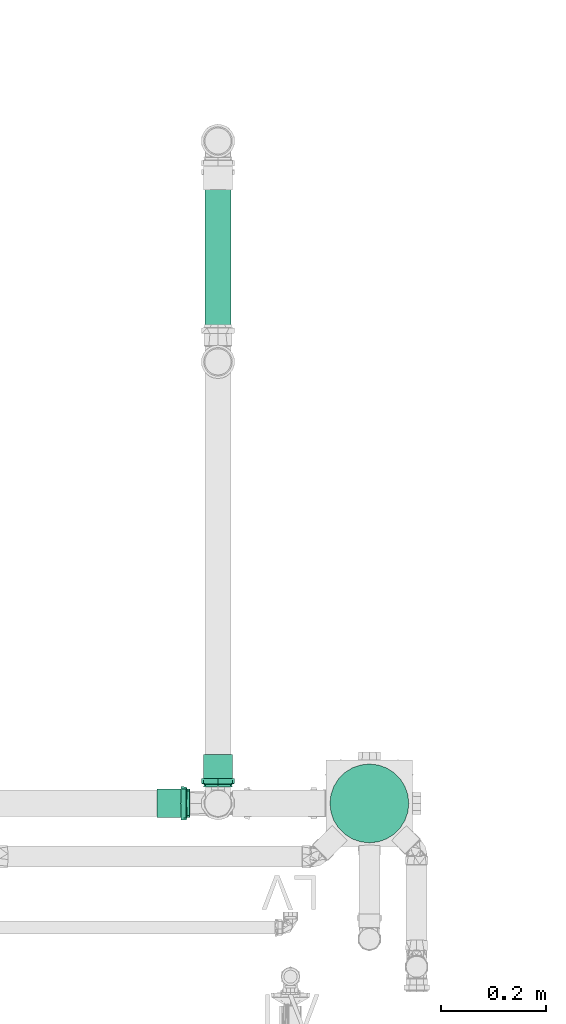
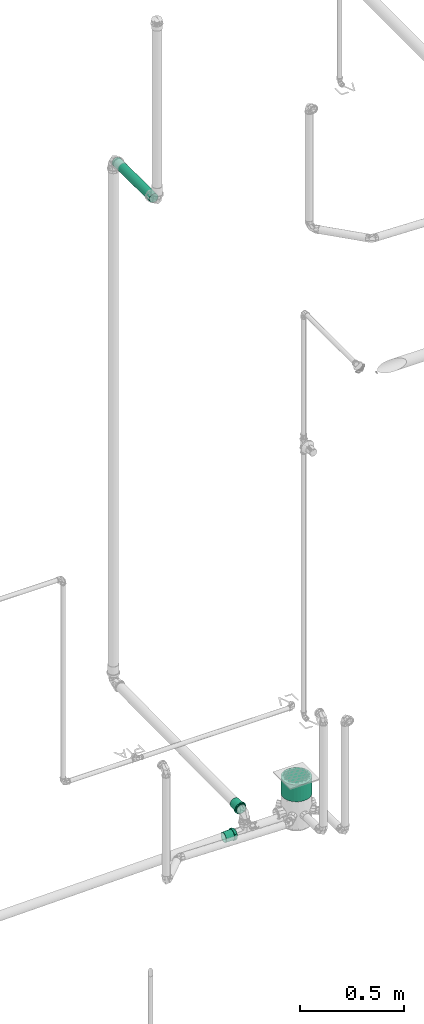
# One storey, part 259 of 589: 2 flow fittings, 2 flow segments.
"""IFC2X3 building model written with IfcOpenShell, lengths in millimetres."""

import ifcopenshell
import ifcopenshell.guid

model = None  # the IFC model being written
_history = None  # IfcOwnerHistory: only IFC2X3 demands one
_inside = {}  # id of a spatial element -> (the spatial element, [elements in it])
_under = {}  # id of a project, library or spatial element -> (it, [spatial elements below it])
_declared = {}  # id of a project -> (the project, [libraries it declares])
_typed = {}  # id of a type object -> (the type object, [elements of that type])
_made_of = {}  # id of a material, layer set ... -> (it, [elements and type objects made of it])


def new_model(schema):
    """Start an empty IFC model of exactly this schema.

    Asked for "IFC4X3", IfcOpenShell would pick the latest addendum, in which some entities
    have other attributes; the version numbers below select the first issue.
    IFC2X3 requires an IfcOwnerHistory on every rooted entity: one is made here for all.
    """
    global model, _history
    if schema == "IFC4X3":
        model = ifcopenshell.file(schema_version=(4, 3, 0, 0))
    else:
        model = ifcopenshell.file(schema=schema)
    _inside.clear()
    _under.clear()
    _declared.clear()
    _typed.clear()
    _made_of.clear()
    _history = None
    if model.schema == "IFC2X3":
        org = make("IfcOrganization", Name="unknown")
        user = make(
            "IfcPersonAndOrganization",
            ThePerson=make("IfcPerson", FamilyName="unknown"),
            TheOrganization=org,
        )
        app = make(
            "IfcApplication",
            ApplicationDeveloper=org,
            Version="unknown",
            ApplicationFullName="unknown",
            ApplicationIdentifier="unknown",
        )
        _history = make(
            "IfcOwnerHistory",
            OwningUser=user,
            OwningApplication=app,
            ChangeAction="ADDED",
            CreationDate=0,
        )
    return model


def make(cls, **values):
    """One entity of the class cls with the attributes given. An attribute that is None is left unset."""
    return model.create_entity(
        cls, **{name: value for name, value in values.items() if value is not None}
    )


def entity(cls, *values):
    """Any entity or typed value of the class cls, its attributes in the order of the schema. None: left unset."""
    e = model.create_entity(cls)
    for i, value in enumerate(values):
        if value is not None:
            e[i] = value
    return e


def rooted(cls, **values):
    """An entity with a GlobalId (a new one), such as an element, a storey or a relation."""
    return make(cls, GlobalId=ifcopenshell.guid.new(), OwnerHistory=_history, **values)


def si_unit(unit_type, name, prefix=None):
    """IfcSIUnit, for example si_unit("LENGTHUNIT", "METRE", prefix="MILLI")."""
    return make("IfcSIUnit", UnitType=unit_type, Prefix=prefix, Name=name)


def converted_unit(unit_type, name, factor, base, dimensions=None, offset=None):
    """IfcConversionBasedUnit, such as the inch: factor (a typed value) times the base unit."""
    return make(
        "IfcConversionBasedUnit"
        if offset is None
        else "IfcConversionBasedUnitWithOffset",
        ConversionOffset=offset,
        Dimensions=None
        if dimensions is None
        else entity("IfcDimensionalExponents", *dimensions),
        UnitType=unit_type,
        Name=name,
        ConversionFactor=make(
            "IfcMeasureWithUnit", ValueComponent=factor, UnitComponent=base
        ),
    )


def derived_unit(unit_type, elements):
    """IfcDerivedUnit: a product of units, each with its exponent."""
    return make(
        "IfcDerivedUnit",
        Elements=[
            make("IfcDerivedUnitElement", Unit=unit, Exponent=power)
            for unit, power in elements
        ],
        UnitType=unit_type,
    )


def assignment(units):
    """IfcUnitAssignment: the units of a project."""
    return None if units is None else make("IfcUnitAssignment", Units=units)


def point(xyz):
    """IfcCartesianPoint."""
    return None if xyz is None else make("IfcCartesianPoint", Coordinates=xyz)


def direction(xyz):
    """IfcDirection."""
    return None if xyz is None else make("IfcDirection", DirectionRatios=xyz)


def frame(location, z_axis=None, x_axis=None):
    """IfcAxis2Placement3D, a coordinate frame: its origin and axes. An axis left out is left unset."""
    return make(
        "IfcAxis2Placement3D",
        Location=point(location),
        Axis=direction(z_axis),
        RefDirection=direction(x_axis),
    )


def frame_2d(location, x_axis=None):
    """IfcAxis2Placement2D, a coordinate frame in the plane: its origin and x axis."""
    return make(
        "IfcAxis2Placement2D", Location=point(location), RefDirection=direction(x_axis)
    )


def origin():
    """The frame at (0, 0, 0) with its axes left unset."""
    return frame((0.0, 0.0, 0.0))


def origin_2d_with_axis():
    """The frame at (0, 0) in the plane with the x axis (1, 0) written out."""
    return frame_2d((0.0, 0.0), x_axis=(1.0, 0.0))


def place(relative_to, where):
    """IfcLocalPlacement: puts the frame where relative to a parent placement (None: the world)."""
    return make(
        "IfcLocalPlacement", PlacementRelTo=relative_to, RelativePlacement=where
    )


def context(
    kind, dimensions, precision=None, world=None, true_north=None, identifier=None
):
    """IfcGeometricRepresentationContext, for example the 3D "Model" context."""
    return make(
        "IfcGeometricRepresentationContext",
        ContextIdentifier=identifier,
        ContextType=kind,
        CoordinateSpaceDimension=dimensions,
        Precision=precision,
        WorldCoordinateSystem=world,
        TrueNorth=true_north,
    )


def subcontext(parent, identifier, kind, view, scale=None):
    """IfcGeometricRepresentationSubContext, for example "Body" below "Model"."""
    return make(
        "IfcGeometricRepresentationSubContext",
        ContextIdentifier=identifier,
        ContextType=kind,
        ParentContext=parent,
        TargetScale=scale,
        TargetView=view,
    )


def project(units=None, contexts=None):
    """IfcProject with its units and contexts."""
    return rooted(
        "IfcProject",
        Name="project",
        RepresentationContexts=contexts,
        UnitsInContext=assignment(units),
    )


def spatial(cls, under=None, at=None, **own):
    """A site, building, storey or space (cls), placed at a placement, below another one or the project."""
    s = rooted(cls, ObjectPlacement=at, **own)
    if under is not None:
        _under.setdefault(under.id(), (under, []))[1].append(s)
    return s


def profile(cls, at=None, kind="AREA", **sizes):
    """A parametric profile (cls). Its sizes go by their IFC names, for example OverallWidth=200.0."""
    return make(cls, ProfileType=kind, Position=at, **sizes)


def circle(**sizes):
    """IfcCircleProfileDef."""
    return profile("IfcCircleProfileDef", **sizes)


def extrude(swept, where, along, depth):
    """IfcExtrudedAreaSolid: the profile swept, set in the frame where, extruded along a direction by depth."""
    return make(
        "IfcExtrudedAreaSolid",
        SweptArea=swept,
        Position=where,
        ExtrudedDirection=direction(along),
        Depth=depth,
    )


def faces_of(points, faces, orient=None, outer=None):
    """IfcFace entities. A face is a list of loops; a loop is a list of indices into points, from 0.

    orient and outer hold one flag for each loop. By default every Orientation is true, the
    first loop of a face is its IfcFaceOuterBound and the others are IfcFaceBound.
    """
    made = []
    for i, loops in enumerate(faces):
        bounds = []
        for j, loop in enumerate(loops):
            is_outer = j == 0 if outer is None else outer[i][j]
            bounds.append(
                make(
                    "IfcFaceOuterBound" if is_outer else "IfcFaceBound",
                    Bound=make("IfcPolyLoop", Polygon=[points[k] for k in loop]),
                    Orientation=True if orient is None else orient[i][j],
                )
            )
        made.append(make("IfcFace", Bounds=bounds))
    return made


def faceted_brep(points, faces, orient=None, outer=None, voids=None):
    """IfcFacetedBrep: a solid bounded by flat faces; with voids (closed shells), ...WithVoids."""
    shared = [point(p) for p in points]
    hull = make("IfcClosedShell", CfsFaces=faces_of(shared, faces, orient, outer))
    if voids is None:
        return make("IfcFacetedBrep", Outer=hull)
    return make(
        "IfcFacetedBrepWithVoids",
        Outer=hull,
        Voids=[
            make(cls, CfsFaces=faces_of(shared, fs, o, b)) for cls, fs, o, b in voids
        ],
    )


def shape(context_of_items, identifier, shape_type, items):
    """IfcShapeRepresentation: the items that make up one representation, for example the "Body"."""
    return make(
        "IfcShapeRepresentation",
        ContextOfItems=context_of_items,
        RepresentationIdentifier=identifier,
        RepresentationType=shape_type,
        Items=items,
    )


def source(mapping_origin, context_of_items, identifier, shape_type, items):
    """IfcRepresentationMap: a shape defined once, which mapped items show again and again."""
    return make(
        "IfcRepresentationMap",
        MappingOrigin=mapping_origin,
        MappedRepresentation=shape(context_of_items, identifier, shape_type, items),
    )


def transform(
    local_origin,
    x_axis=None,
    y_axis=None,
    z_axis=None,
    scale=None,
    scale2=None,
    scale3=None,
    uniform=True,
):
    """IfcCartesianTransformationOperator3D, or its non-uniform kind. x_axis, y_axis, z_axis: its Axis1, 2, 3."""
    if uniform:
        return make(
            "IfcCartesianTransformationOperator3D",
            Axis1=direction(x_axis),
            Axis2=direction(y_axis),
            LocalOrigin=point(local_origin),
            Scale=scale,
            Axis3=direction(z_axis),
        )
    return make(
        "IfcCartesianTransformationOperator3DnonUniform",
        Axis1=direction(x_axis),
        Axis2=direction(y_axis),
        LocalOrigin=point(local_origin),
        Scale=scale,
        Axis3=direction(z_axis),
        Scale2=scale2,
        Scale3=scale3,
    )


def mapped(mapping_source, mapping_target):
    """IfcMappedItem: shows the shape of a source again, moved by a transform."""
    return make(
        "IfcMappedItem", MappingSource=mapping_source, MappingTarget=mapping_target
    )


def material(Name=None, Category=None):
    """IfcMaterial."""
    return make("IfcMaterial", Name=Name, Category=Category)


def made_of(thing, what):
    """Note that an element or type object is made of a material, layer set ...; save() writes the relation."""
    if what is not None:
        _made_of.setdefault(what.id(), (what, []))[1].append(thing)
    return thing


def type_object(cls, material=None, **own):
    """A type object (cls), such as IfcWallType, which elements share."""
    return made_of(rooted(cls, **own), material)


def type_shapes(of_type, sources):
    """Give a type object the sources (RepresentationMaps) that its elements show as mapped items."""
    of_type.RepresentationMaps = sources


def element(
    cls,
    number,
    at=None,
    inside=None,
    cuts=None,
    type_object=None,
    material=None,
    context=None,
    identifier="Body",
    shape_type=None,
    held_by="IfcProductDefinitionShape",
    body=None,
    shapes=None,
    **own,
):
    """One element of the class cls, such as IfcWall. Its Tag is "e" and its number.

    at: its placement. inside: the storey or other place that contains it. cuts: it is an
    opening in that element (IfcRelVoidsElement). A single representation is given by context,
    identifier, shape_type and body (its items); several are given by shapes. held_by: the class
    of the entity that holds the representations. save() writes the other relations.
    """
    e = rooted(cls, Tag="e%d" % number, ObjectPlacement=at, **own)
    if body is not None:
        shapes = [shape(context, identifier, shape_type, body)]
    if shapes is not None:
        e.Representation = make(held_by, Representations=shapes)
    if inside is not None:
        _inside.setdefault(inside.id(), (inside, []))[1].append(e)
    if cuts is not None:
        rooted(
            "IfcRelVoidsElement", RelatingBuildingElement=cuts, RelatedOpeningElement=e
        )
    if type_object is not None:
        _typed.setdefault(type_object.id(), (type_object, []))[1].append(e)
    return made_of(e, material)


def aggregate(whole, parts):
    """IfcRelAggregates: a whole, such as a stair, and the parts it consists of."""
    return rooted("IfcRelAggregates", RelatingObject=whole, RelatedObjects=parts)


def save(model, path):
    """Write the relations noted so far, then the file.

    IfcRelAggregates (storeys below a building ...), IfcRelContainedInSpatialStructure (elements
    in a storey), IfcRelDefinesByType, IfcRelAssociatesMaterial and IfcRelDeclares: one each for
    every whole, place, type object, material and project.
    """
    for whole, parts in _under.values():
        aggregate(whole, parts)
    for where, things in _inside.values():
        rooted(
            "IfcRelContainedInSpatialStructure",
            RelatedElements=things,
            RelatingStructure=where,
        )
    for kind, things in _typed.values():
        rooted("IfcRelDefinesByType", RelatedObjects=things, RelatingType=kind)
    for what, things in _made_of.values():
        rooted("IfcRelAssociatesMaterial", RelatedObjects=things, RelatingMaterial=what)
    for by, libraries in _declared.values():
        rooted("IfcRelDeclares", RelatingContext=by, RelatedDefinitions=libraries)
    model.write(path)


model = new_model("IFC2X3")

# Units and contexts
model_context = context("Model", 3, precision=0.01, world=origin(), true_north=direction((6.123031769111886e-17, 1.0)))
body_context = subcontext(model_context, "Body", "Model", "MODEL_VIEW")
ifc_project = project(units=[si_unit("LENGTHUNIT", "METRE", prefix="MILLI"), si_unit("AREAUNIT", "SQUARE_METRE"), si_unit("VOLUMEUNIT", "CUBIC_METRE"), converted_unit("PLANEANGLEUNIT", "DEGREE", entity("IfcRatioMeasure", 0.017453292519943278), si_unit("PLANEANGLEUNIT", "RADIAN"), dimensions=[0, 0, 0, 0, 0, 0, 0]), si_unit("MASSUNIT", "GRAM", prefix="KILO"), derived_unit("MASSDENSITYUNIT", [(si_unit("MASSUNIT", "GRAM", prefix="KILO"), 1), (si_unit("LENGTHUNIT", "METRE"), -3)]), derived_unit("IONCONCENTRATIONUNIT", [(si_unit("MASSUNIT", "GRAM", prefix="KILO"), 1), (si_unit("LENGTHUNIT", "METRE"), -3)]), derived_unit("MOMENTOFINERTIAUNIT", [(si_unit("LENGTHUNIT", "METRE"), 4)]), si_unit("TIMEUNIT", "SECOND"), si_unit("FREQUENCYUNIT", "HERTZ"), si_unit("THERMODYNAMICTEMPERATUREUNIT", "DEGREE_CELSIUS"), derived_unit("THERMALTRANSMITTANCEUNIT", [(si_unit("MASSUNIT", "GRAM", prefix="KILO"), 1), (si_unit("THERMODYNAMICTEMPERATUREUNIT", "KELVIN"), -1), (si_unit("TIMEUNIT", "SECOND"), -3)]), derived_unit("THERMALCONDUCTANCEUNIT", [(si_unit("MASSUNIT", "GRAM", prefix="KILO"), 1), (si_unit("THERMODYNAMICTEMPERATUREUNIT", "KELVIN"), -1), (si_unit("TIMEUNIT", "SECOND"), -3), (si_unit("LENGTHUNIT", "METRE"), 1)]), derived_unit("VOLUMETRICFLOWRATEUNIT", [(si_unit("LENGTHUNIT", "METRE"), 3), (si_unit("TIMEUNIT", "SECOND"), -1)]), derived_unit("MASSFLOWRATEUNIT", [(si_unit("MASSUNIT", "GRAM", prefix="KILO"), 1), (si_unit("TIMEUNIT", "SECOND"), -1)]), derived_unit("ROTATIONALFREQUENCYUNIT", [(si_unit("TIMEUNIT", "SECOND"), -1)]), si_unit("ELECTRICCURRENTUNIT", "AMPERE"), si_unit("ELECTRICVOLTAGEUNIT", "VOLT"), si_unit("POWERUNIT", "WATT"), si_unit("FORCEUNIT", "NEWTON", prefix="KILO"), si_unit("ILLUMINANCEUNIT", "LUX"), si_unit("LUMINOUSFLUXUNIT", "LUMEN"), si_unit("LUMINOUSINTENSITYUNIT", "CANDELA"), derived_unit("USERDEFINED", [(si_unit("MASSUNIT", "GRAM", prefix="KILO"), -1), (si_unit("LENGTHUNIT", "METRE"), -2), (si_unit("TIMEUNIT", "SECOND"), 3), (si_unit("LUMINOUSFLUXUNIT", "LUMEN"), 1)]), derived_unit("USERDEFINED", [(si_unit("MASSUNIT", "GRAM", prefix="KILO"), 1), (si_unit("TIMEUNIT", "SECOND"), -3), (si_unit("LENGTHUNIT", "METRE"), 3), (si_unit("ELECTRICCURRENTUNIT", "AMPERE"), -2)]), derived_unit("SOUNDPOWERUNIT", [(si_unit("MASSUNIT", "GRAM", prefix="KILO"), 1), (si_unit("TIMEUNIT", "SECOND"), -3), (si_unit("LENGTHUNIT", "METRE"), 2)]), derived_unit("SOUNDPRESSUREUNIT", [(si_unit("MASSUNIT", "GRAM", prefix="KILO"), 1), (si_unit("LENGTHUNIT", "METRE"), -1), (si_unit("TIMEUNIT", "SECOND"), -2)]), derived_unit("LINEARVELOCITYUNIT", [(si_unit("LENGTHUNIT", "METRE"), 1), (si_unit("TIMEUNIT", "SECOND"), -1)]), si_unit("PRESSUREUNIT", "PASCAL"), derived_unit("USERDEFINED", [(si_unit("MASSUNIT", "GRAM", prefix="KILO"), 1), (si_unit("LENGTHUNIT", "METRE"), -2), (si_unit("TIMEUNIT", "SECOND"), -2)]), derived_unit("LINEARFORCEUNIT", [(si_unit("MASSUNIT", "GRAM", prefix="KILO"), 1), (si_unit("TIMEUNIT", "SECOND"), -2)]), derived_unit("PLANARFORCEUNIT", [(si_unit("MASSUNIT", "GRAM", prefix="KILO"), 1), (si_unit("LENGTHUNIT", "METRE"), -1), (si_unit("TIMEUNIT", "SECOND"), -2)]), derived_unit("SPECIFICHEATCAPACITYUNIT", [(si_unit("THERMODYNAMICTEMPERATUREUNIT", "KELVIN"), -1), (si_unit("LENGTHUNIT", "METRE"), 2), (si_unit("TIMEUNIT", "SECOND"), -2)]), derived_unit("HEATINGVALUEUNIT", [(si_unit("LENGTHUNIT", "METRE"), 2), (si_unit("TIMEUNIT", "SECOND"), -2)]), derived_unit("VAPORPERMEABILITYUNIT", [(si_unit("LENGTHUNIT", "METRE"), -1), (si_unit("TIMEUNIT", "SECOND"), 1)]), derived_unit("DYNAMICVISCOSITYUNIT", [(si_unit("MASSUNIT", "GRAM", prefix="KILO"), 1), (si_unit("TIMEUNIT", "SECOND"), -1), (si_unit("LENGTHUNIT", "METRE"), -1)]), derived_unit("THERMALEXPANSIONCOEFFICIENTUNIT", [(si_unit("THERMODYNAMICTEMPERATUREUNIT", "KELVIN"), -1)]), derived_unit("MODULUSOFELASTICITYUNIT", [(si_unit("MASSUNIT", "GRAM", prefix="KILO"), 1), (si_unit("LENGTHUNIT", "METRE"), -1), (si_unit("TIMEUNIT", "SECOND"), -2)]), derived_unit("ISOTHERMALMOISTURECAPACITYUNIT", [(si_unit("LENGTHUNIT", "METRE"), 3), (si_unit("MASSUNIT", "GRAM", prefix="KILO"), -1)]), derived_unit("MOISTUREDIFFUSIVITYUNIT", [(si_unit("TIMEUNIT", "SECOND"), -1), (si_unit("LENGTHUNIT", "METRE"), 2)])], contexts=[model_context])

# Site, building, storey
site_placement = place(None, origin())
site = spatial("IfcSite", under=ifc_project, at=site_placement, Name="Default", CompositionType="ELEMENT")
building_placement = place(site_placement, origin())
building = spatial("IfcBuilding", under=site, at=building_placement, CompositionType="ELEMENT")
storey_placement = place(building_placement, frame((0.0, 0.0, 100.0)))
storey = spatial("IfcBuildingStorey", under=building, at=storey_placement, Name="TÉRREO", CompositionType="ELEMENT", Elevation=100.0)

# Flow segments
pipe_segment_type = type_object("IfcPipeSegmentType", Name="Tipos de tubos:PVC Esgoto Série Normal", PredefinedType="NOTDEFINED")
flow_segment_1_placement = place(storey_placement, origin())
element("IfcFlowSegment", 1, at=flow_segment_1_placement, inside=storey, type_object=pipe_segment_type, Name="Tipos de tubos:PVC Esgoto Série Normal", ObjectType="Tipos de tubos:PVC Esgoto Série Normal", context=body_context, shape_type="SweptSolid", body=[
    extrude(circle(Radius=25.0, at=frame_2d((0.0, 5.414064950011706e-13), x_axis=(1.0, 0.0))), frame((2321.535130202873, 4584.506676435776, 2952.909397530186), z_axis=(0.0, -0.9999500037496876, 0.009999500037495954), x_axis=(-1.0, 0.0, 0.0)), (0.0, 0.0, 1.0), 358.13841694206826),
])
flow_segment_2_placement = place(storey_placement, origin())
element("IfcFlowSegment", 2, at=flow_segment_2_placement, inside=storey, type_object=pipe_segment_type, Name="Tipos de tubos:PVC Esgoto Série Normal", ObjectType="Tipos de tubos:PVC Esgoto Série Normal", context=body_context, shape_type="SweptSolid", body=[
    extrude(circle(Radius=75.0, at=origin_2d_with_axis()), frame((2609.4844981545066, 3355.44298208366, -101.97956172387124), z_axis=(0.0, 3.478846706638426e-05, 1.0), x_axis=(-1.0, 0.0, 0.0)), (0.0, 0.0, 1.0), 98.59496831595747),
])

# Flow fittings
ifc_material = material(Name="PVC Série Normal")
pipe_fitting_type = type_object("IfcPipeFittingType", Name="PVC Esgoto_Luva Simples para Conexão_Rodrigo MEP:Standard", PredefinedType="NOTDEFINED", material=ifc_material)
shared_shape = source(origin(), body_context, "Body", "Brep", [
    faceted_brep([(16.599999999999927, 15.900000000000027, -27.53960784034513), (16.599999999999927, 22.485995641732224, -22.485995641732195), (16.599999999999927, 13.599999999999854, -23.555890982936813), (16.599999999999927, 7.039878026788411, -26.273182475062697), (16.599999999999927, 8.2304456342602, -30.71644127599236), (16.599999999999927, 19.233304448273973, -19.233304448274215), (16.599999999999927, 27.539607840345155, -15.899999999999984), (16.599999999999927, 23.55589098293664, -13.600000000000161), (16.599999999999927, 26.273182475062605, -7.03987802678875), (16.599999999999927, 30.716441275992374, -8.230445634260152), (16.599999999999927, 27.2, 0.0), (16.599999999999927, 31.8, 0.0), (16.599999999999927, 26.273182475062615, 7.0398780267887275), (16.599999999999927, 30.71644127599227, 8.23044563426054), (16.599999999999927, 23.555890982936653, 13.60000000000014), (16.599999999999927, 27.539607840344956, 15.900000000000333), (16.599999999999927, 19.233304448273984, 19.2333044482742), (16.599999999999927, 22.485995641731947, 22.48599564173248), (16.599999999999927, 13.599999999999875, 23.555890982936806), (16.599999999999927, 15.899999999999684, 27.53960784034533), (16.599999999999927, 7.039878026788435, 26.27318247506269), (16.599999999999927, 8.230445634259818, 30.716441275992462), (16.599999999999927, 0.0, 27.2), (16.599999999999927, 0.0, 31.8), (16.599999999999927, -7.039878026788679, 26.273182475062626), (16.599999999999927, -8.230445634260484, 30.716441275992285), (16.599999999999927, -13.600000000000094, 23.555890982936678), (16.599999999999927, -15.900000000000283, 27.53960784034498), (16.599999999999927, -19.23330444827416, 19.233304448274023), (16.599999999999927, -22.485995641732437, 22.48599564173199), (16.599999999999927, -23.55589098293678, 13.59999999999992), (16.599999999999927, -27.539607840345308, 15.899999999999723), (16.599999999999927, -30.71644127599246, 8.230445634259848), (16.599999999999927, -26.273182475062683, 7.039878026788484), (16.599999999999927, -31.8, 0.0), (16.599999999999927, -27.2, 0.0), (16.599999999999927, -30.71644127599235, -8.23044563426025), (16.599999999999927, -26.273182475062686, -7.03987802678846), (16.599999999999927, -27.53960784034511, -15.90000000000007), (16.599999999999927, -23.55589098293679, -13.599999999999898), (16.599999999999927, -22.485995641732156, -22.485995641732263), (16.599999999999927, -19.233304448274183, -19.233304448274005), (16.599999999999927, -15.899999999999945, -27.53960784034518), (16.599999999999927, -13.600000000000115, -23.555890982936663), (16.599999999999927, -8.230445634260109, -30.716441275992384), (16.599999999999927, -7.039878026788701, -26.273182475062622), (16.599999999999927, 0.0, -31.8), (16.599999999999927, 0.0, -27.2), (6.500000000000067, -10.708108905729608, 29.429219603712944), (6.500000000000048, -24.359073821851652, 20.44200387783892), (6.500000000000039, -27.120498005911, 15.6595386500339), (6.50000000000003, -29.881922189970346, 10.877073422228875), (6.500000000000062, -15.89769721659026, 27.540937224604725), (6.500000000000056, -20.128385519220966, 23.991470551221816), (6.50000000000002, -30.840961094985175, 5.438536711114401), (6.5000000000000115, -31.8, 0.0), (6.50000000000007, -5.518520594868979, 31.317501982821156), (6.500000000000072, 5.526376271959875, 31.316116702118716), (6.50000000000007, 0.00392783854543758, 31.316809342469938), (6.500000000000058, 20.134403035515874, 23.986420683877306), (6.500000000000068, 10.715490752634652, 29.42653259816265), (6.500000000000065, 15.904605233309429, 27.536948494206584), (6.500000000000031, 29.8846497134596, 10.869577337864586), (6.500000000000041, 27.12442527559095, 15.652735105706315), (6.5000000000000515, 24.364200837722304, 20.435892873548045), (6.5000000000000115, 31.8, 0.0), (6.499999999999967, 24.364200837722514, -20.435892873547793), (6.499999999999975, 27.12442527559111, -15.652735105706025), (6.499999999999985, 29.884649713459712, -10.869577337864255), (6.4999999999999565, 15.904605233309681, -27.53694849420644), (6.499999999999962, 20.134403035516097, -23.986420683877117), (6.499999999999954, 10.715490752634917, -29.42653259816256), (6.499999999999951, 5.526376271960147, -31.31611670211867), (6.499999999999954, -5.518520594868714, -31.317501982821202), (6.499999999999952, 0.003927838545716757, -31.316809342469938), (6.499999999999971, -20.128385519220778, -23.99147055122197), (6.499999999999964, -15.897697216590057, -27.54093722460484), (6.499999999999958, -10.70810890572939, -29.42921960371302), (6.499999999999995, -29.881922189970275, -10.877073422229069), (6.499999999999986, -27.12049800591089, -15.659538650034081), (6.499999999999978, -24.359073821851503, -20.442003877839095), (6.500000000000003, -30.840961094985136, -5.438536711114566), (6.499999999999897, -30.696173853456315, -6.259599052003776), (62.0, 13.600000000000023, -23.55589098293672), (62.0, 19.233304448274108, -19.23330444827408), (62.0, 12.499999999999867, -21.650635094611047), (62.0, 6.470476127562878, -24.14814565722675), (62.0, 7.039878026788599, -26.273182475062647), (62.0, 17.677669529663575, -17.677669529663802), (62.0, 23.55589098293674, -13.599999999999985), (62.0, 21.65063509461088, -12.50000000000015), (62.0, 24.148145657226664, -6.470476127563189), (62.0, 26.27318247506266, -7.039878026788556), (62.0, 25.0, 0.0), (62.0, 27.2, 0.0), (62.0, 24.148145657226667, 6.4704761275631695), (62.0, 26.273182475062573, 7.03987802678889), (62.0, 21.650635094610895, 12.500000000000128), (62.0, 23.555890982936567, 13.600000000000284), (62.0, 17.67766952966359, 17.67766952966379), (62.0, 19.233304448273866, 19.233304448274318), (62.0, 12.499999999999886, 21.650635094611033), (62.0, 13.59999999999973, 23.55589098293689), (62.0, 6.4704761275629, 24.14814565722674), (62.0, 7.039878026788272, 26.273182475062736), (62.0, 0.0, 25.0), (62.0, 0.0, 27.2), (62.0, -6.470476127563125, 24.148145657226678), (62.0, -7.039878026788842, 26.273182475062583), (62.0, -12.500000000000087, 21.650635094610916), (62.0, -13.600000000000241, 23.555890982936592), (62.0, -17.677669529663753, 17.677669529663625), (62.0, -19.233304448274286, 19.2333044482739), (62.0, -21.65063509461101, 12.499999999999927), (62.0, -23.555890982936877, 13.599999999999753), (62.0, -26.27318247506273, 7.039878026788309), (62.0, -24.14814565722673, 6.470476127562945), (62.0, -27.2, 0.0), (62.0, -25.0, 0.0), (62.0, -26.27318247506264, -7.0398780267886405), (62.0, -24.148145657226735, -6.470476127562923), (62.0, -23.5558909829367, -13.600000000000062), (62.0, -21.650635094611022, -12.499999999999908), (62.0, -19.233304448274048, -19.233304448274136), (62.0, -17.67766952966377, -17.677669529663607), (62.0, -13.599999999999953, -23.555890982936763), (62.0, -12.500000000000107, -21.650635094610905), (62.0, -7.039878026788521, -26.27318247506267), (62.0, -6.470476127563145, -24.148145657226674), (62.0, 0.0, -27.2), (62.0, 0.0, -25.0), (0.0, 12.499999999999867, -21.650635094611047), (0.0, 19.233304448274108, -19.23330444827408), (0.0, 13.600000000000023, -23.55589098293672), (0.0, 6.470476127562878, -24.14814565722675), (0.0, 17.677669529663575, -17.677669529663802), (0.0, 23.55589098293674, -13.599999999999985), (0.0, 21.65063509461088, -12.50000000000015), (0.0, 24.148145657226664, -6.470476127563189), (0.0, 26.27318247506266, -7.039878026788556), (0.0, 25.0, 0.0), (0.0, 27.2, 0.0), (0.0, 24.148145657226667, 6.4704761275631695), (0.0, 26.273182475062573, 7.03987802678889), (0.0, 21.650635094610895, 12.500000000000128), (0.0, 23.555890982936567, 13.600000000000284), (0.0, 17.67766952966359, 17.67766952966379), (0.0, 19.233304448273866, 19.233304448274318), (0.0, 12.499999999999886, 21.650635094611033), (0.0, 13.59999999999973, 23.55589098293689), (0.0, 6.4704761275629, 24.14814565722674), (0.0, 7.039878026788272, 26.273182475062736), (0.0, 0.0, 25.0), (0.0, 0.0, 27.2), (0.0, -6.470476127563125, 24.148145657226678), (0.0, -7.039878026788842, 26.273182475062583), (0.0, -12.500000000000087, 21.650635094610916), (0.0, -13.600000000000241, 23.555890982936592), (0.0, -17.677669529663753, 17.677669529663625), (0.0, -19.233304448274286, 19.2333044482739), (0.0, -21.65063509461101, 12.499999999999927), (0.0, -23.555890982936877, 13.599999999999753), (0.0, -26.27318247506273, 7.039878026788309), (0.0, -24.14814565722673, 6.470476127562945), (0.0, -27.2, 0.0), (0.0, -25.0, 0.0), (0.0, -26.27318247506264, -7.0398780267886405), (0.0, -24.148145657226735, -6.470476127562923), (0.0, -23.5558909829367, -13.600000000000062), (0.0, -21.650635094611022, -12.499999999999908), (0.0, -19.233304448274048, -19.233304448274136), (0.0, -17.67766952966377, -17.677669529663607), (0.0, -13.599999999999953, -23.555890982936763), (0.0, -12.500000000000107, -21.650635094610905), (0.0, -7.039878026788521, -26.27318247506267), (0.0, -6.470476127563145, -24.148145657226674), (0.0, 0.0, -27.2), (0.0, 0.0, -25.0), (0.0, 7.039878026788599, -26.273182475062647), (5.300000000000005, -26.37968999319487, 4.651830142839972), (5.299999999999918, -26.25584678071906, 5.354122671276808), (5.300000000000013, -25.559379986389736, 9.303660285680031), (5.300000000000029, -20.835434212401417, 17.48498444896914), (5.300000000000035, -17.216732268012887, 20.521006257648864), (5.300000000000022, -23.19740709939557, 13.394322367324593), (5.3000000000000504, -4.720244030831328, 26.787297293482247), (5.300000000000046, -9.15913717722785, 25.172162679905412), (5.299999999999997, -27.2, 0.0), (5.300000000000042, -13.598030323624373, 23.557028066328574), (5.300000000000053, 9.165451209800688, 25.169864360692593), (5.300000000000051, 13.603939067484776, 23.55361632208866), (5.300000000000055, 4.7269633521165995, 26.786112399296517), (5.300000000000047, 17.221879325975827, 20.516686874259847), (5.300000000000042, 20.839819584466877, 17.479757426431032), (5.3000000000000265, 25.56171296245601, 9.297248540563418), (5.299999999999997, 27.2, 0.0), (5.3000000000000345, 23.20076627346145, 13.388502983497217), (5.300000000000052, 0.003359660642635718, 26.786704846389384), (5.299999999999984, 25.56171296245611, -9.29724854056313), (5.299999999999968, 20.839819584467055, -17.47975742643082), (5.2999999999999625, 17.22187932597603, -20.516686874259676), (5.299999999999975, 23.200766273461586, -13.388502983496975), (5.299999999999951, 4.726963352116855, -26.78611239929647), (5.2999999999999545, 9.165451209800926, -25.169864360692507), (5.299999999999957, 13.603939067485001, -23.553616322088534), (5.29999999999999, -26.379689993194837, -4.651830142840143), (5.299999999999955, -9.159137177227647, -25.17216267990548), (5.299999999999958, -13.5980303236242, -23.55702806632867), (5.299999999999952, -4.720244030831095, -26.787297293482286), (5.299999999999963, -17.216732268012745, -20.52100625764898), (5.299999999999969, -20.83543421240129, -17.484984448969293), (5.299999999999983, -25.559379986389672, -9.303660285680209), (5.299999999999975, -23.197407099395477, -13.394322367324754), (5.299999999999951, 0.003359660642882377, -26.78670484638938), (39.0, -25.0, 0.0), (39.0, 25.0, 0.0)], [[[0, 1, 2]], [[0, 2, 3]], [[3, 4, 0]], [[2, 1, 5]], [[6, 5, 1]], [[7, 5, 6]], [[8, 7, 6]], [[8, 6, 9]], [[8, 9, 10]], [[10, 9, 11]], [[12, 10, 11]], [[12, 11, 13]], [[14, 12, 13]], [[14, 13, 15]], [[16, 14, 15]], [[15, 17, 16]], [[17, 18, 16]], [[17, 19, 18]], [[18, 19, 20]], [[21, 20, 19]], [[20, 21, 22]], [[22, 21, 23]], [[22, 23, 24]], [[24, 23, 25]], [[24, 25, 26]], [[27, 26, 25]], [[27, 28, 26]], [[28, 27, 29]], [[30, 28, 29]], [[31, 30, 29]], [[32, 30, 31]], [[33, 30, 32]], [[33, 32, 34]], [[35, 33, 34]], [[36, 35, 34]], [[36, 37, 35]], [[37, 36, 38]], [[39, 37, 38]], [[39, 38, 40]], [[39, 40, 41]], [[40, 42, 41]], [[41, 42, 43]], [[43, 42, 44]], [[44, 45, 43]], [[46, 45, 44]], [[4, 47, 46]], [[46, 47, 45]], [[4, 3, 47]], [[48, 27, 25]], [[31, 29, 49]], [[31, 49, 50, 51]], [[52, 53, 27]], [[32, 51, 54]], [[54, 55, 34]], [[54, 34, 32]], [[25, 56, 48]], [[49, 29, 53]], [[23, 57, 58, 56]], [[59, 19, 17]], [[27, 53, 29]], [[48, 52, 27]], [[31, 51, 32]], [[57, 23, 21]], [[60, 19, 61]], [[15, 62, 63, 64]], [[19, 60, 21]], [[15, 13, 62]], [[17, 64, 59]], [[57, 21, 60]], [[23, 56, 25]], [[15, 64, 17]], [[13, 65, 62]], [[13, 11, 65]], [[59, 61, 19]], [[65, 11, 9]], [[6, 1, 66]], [[6, 66, 67, 68]], [[69, 70, 0]], [[68, 65, 9]], [[71, 69, 0]], [[71, 0, 4]], [[4, 72, 71]], [[66, 1, 70]], [[46, 73, 74, 72]], [[75, 76, 42]], [[0, 70, 1]], [[75, 42, 40]], [[6, 68, 9]], [[73, 46, 44]], [[77, 42, 76]], [[38, 78, 79, 80]], [[42, 77, 44]], [[38, 36, 78]], [[40, 80, 75]], [[73, 44, 77]], [[46, 72, 4]], [[38, 80, 40]], [[36, 81, 82, 78]], [[55, 81, 34]], [[34, 81, 36]], [[83, 84, 85]], [[83, 85, 86]], [[86, 87, 83]], [[85, 84, 88]], [[89, 88, 84]], [[88, 89, 90]], [[90, 89, 91]], [[92, 91, 89]], [[92, 93, 91]], [[93, 92, 94]], [[95, 93, 94]], [[94, 96, 95]], [[95, 96, 97]], [[98, 97, 96]], [[97, 98, 99]], [[99, 98, 100]], [[101, 99, 100]], [[100, 102, 101]], [[101, 102, 103]], [[104, 103, 102]], [[103, 104, 105]], [[105, 104, 106]], [[105, 106, 107]], [[107, 106, 108]], [[107, 108, 109]], [[110, 109, 108]], [[110, 111, 109]], [[111, 110, 112]], [[112, 113, 111]], [[114, 113, 112]], [[113, 114, 115]], [[115, 116, 113]], [[117, 116, 115]], [[117, 118, 116]], [[119, 118, 117]], [[119, 120, 118]], [[120, 119, 121]], [[121, 122, 120]], [[122, 121, 123]], [[122, 123, 124]], [[123, 125, 124]], [[124, 125, 126]], [[126, 125, 127]], [[127, 128, 126]], [[129, 128, 127]], [[87, 130, 129]], [[129, 130, 128]], [[87, 86, 130]], [[131, 132, 133]], [[134, 131, 133]], [[135, 132, 131]], [[132, 135, 136]], [[137, 136, 135]], [[138, 136, 137]], [[136, 138, 139]], [[138, 140, 139]], [[141, 139, 140]], [[141, 140, 142]], [[142, 143, 141]], [[144, 143, 142]], [[143, 144, 145]], [[146, 145, 144]], [[147, 145, 146]], [[147, 146, 148]], [[148, 149, 147]], [[150, 149, 148]], [[149, 150, 151]], [[152, 151, 150]], [[153, 151, 152]], [[154, 153, 152]], [[155, 153, 154]], [[156, 155, 154]], [[155, 156, 157]], [[156, 158, 157]], [[159, 157, 158]], [[158, 160, 159]], [[159, 160, 161]], [[162, 161, 160]], [[160, 163, 162]], [[162, 163, 164]], [[163, 165, 164]], [[164, 165, 166]], [[165, 167, 166]], [[168, 166, 167]], [[167, 169, 168]], [[170, 168, 169]], [[171, 170, 169]], [[171, 172, 170]], [[173, 172, 171]], [[174, 172, 173]], [[173, 175, 174]], [[174, 175, 176]], [[175, 177, 176]], [[177, 134, 178]], [[176, 177, 178]], [[133, 178, 134]], [[162, 179, 180, 181]], [[159, 182, 183]], [[182, 161, 181, 184]], [[185, 155, 186]], [[161, 162, 181]], [[187, 179, 164]], [[183, 188, 157]], [[183, 157, 159]], [[161, 182, 159]], [[189, 190, 149]], [[189, 149, 151]], [[157, 188, 186]], [[157, 186, 155]], [[153, 155, 185]], [[164, 179, 162]], [[151, 191, 189]], [[147, 192, 193]], [[143, 194, 195]], [[194, 145, 193, 196]], [[143, 195, 141]], [[10, 12, 96, 94]], [[149, 192, 147]], [[153, 185, 197, 191]], [[153, 191, 151]], [[145, 147, 193]], [[190, 192, 149]], [[145, 194, 143]], [[139, 195, 198]], [[132, 199, 200]], [[199, 136, 198, 201]], [[202, 178, 203]], [[136, 139, 198]], [[139, 141, 195]], [[92, 8, 10, 94]], [[133, 203, 178]], [[200, 204, 133]], [[136, 199, 132]], [[205, 164, 166]], [[206, 207, 172]], [[133, 204, 203]], [[206, 172, 174]], [[176, 178, 202]], [[200, 133, 132]], [[174, 208, 206]], [[170, 209, 210]], [[166, 211, 205]], [[211, 168, 210, 212]], [[168, 211, 166]], [[172, 209, 170]], [[176, 202, 213, 208]], [[176, 208, 174]], [[168, 170, 210]], [[207, 209, 172]], [[205, 187, 164]], [[116, 118, 214, 165, 163]], [[156, 109, 111, 158]], [[111, 113, 160, 158]], [[113, 116, 163, 160]], [[107, 109, 156, 154]], [[154, 152, 105, 107]], [[103, 105, 152, 150]], [[103, 150, 148, 101]], [[142, 95, 97, 144]], [[97, 99, 146, 144]], [[99, 101, 148, 146]], [[93, 95, 142, 140, 215]], [[215, 140, 138, 91, 93]], [[135, 131, 85, 88]], [[90, 91, 138, 137]], [[90, 137, 135, 88]], [[86, 85, 131, 134]], [[134, 177, 130, 86]], [[128, 130, 177, 175]], [[128, 175, 173, 126]], [[167, 120, 122, 169]], [[122, 124, 171, 169]], [[124, 126, 173, 171]], [[118, 120, 167, 165, 214]], [[211, 78, 82, 81, 55, 187, 205]], [[79, 78, 211, 212, 210, 80]], [[75, 80, 210, 209, 207, 76]], [[207, 206, 208, 73, 77, 76]], [[213, 202, 72, 74, 73, 208]], [[203, 204, 69, 71, 72, 202]], [[198, 195, 65, 68]], [[199, 201, 198, 68, 67, 66]], [[204, 200, 199, 66, 70, 69]], [[195, 194, 62, 65]], [[197, 185, 56, 58, 57, 191]], [[63, 62, 194, 196, 193, 64]], [[57, 60, 61, 190, 189, 191]], [[193, 192, 190, 61, 59, 64]], [[48, 56, 185, 186, 188, 52]], [[187, 55, 54, 51, 181, 180, 179]], [[182, 184, 181, 51, 50, 49]], [[188, 183, 182, 49, 53, 52]], [[30, 33, 115, 114]], [[117, 115, 33, 35]], [[26, 28, 112, 110]], [[114, 112, 28, 30]], [[24, 26, 110, 108]], [[108, 106, 22, 24]], [[18, 20, 104, 102]], [[100, 16, 18, 102]], [[12, 14, 98, 96]], [[100, 98, 14, 16]], [[104, 20, 22, 106]], [[89, 7, 8, 92]], [[83, 87, 3, 2]], [[7, 89, 84, 5]], [[83, 2, 5, 84]], [[87, 129, 47, 3]], [[43, 45, 127, 125]], [[123, 41, 43, 125]], [[37, 39, 121, 119]], [[123, 121, 39, 41]], [[35, 37, 119, 117]], [[127, 45, 47, 129]]]),
])
type_shapes(pipe_fitting_type, [shared_shape])
for number, where, z_axis, x_axis, name in (
    (3, (2321.535130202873, 3386.5602107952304, -114.69060246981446), (-1.0, 0.0, 0.0), (0.0, 0.9999500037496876, 0.009999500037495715), "PVC Esgoto_Luva Simples para Conexão_Rodrigo MEP:Standard"),
    (4, (2267.945846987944, 3355.620457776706, -220.92421524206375), (0.0, 1.0, 0.0), (-0.9998000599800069, 0.0, -0.01999600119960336), "PVC Esgoto_Luva Simples para Conexão_Rodrigo MEP:Standard"),
):
    element("IfcFlowFitting", number, at=place(storey_placement, frame(where, z_axis=z_axis, x_axis=x_axis)), inside=storey, type_object=pipe_fitting_type, material=ifc_material, Name=name, ObjectType="PVC Esgoto_Luva Simples para Conexão_Rodrigo MEP:Standard", context=body_context, shape_type="MappedRepresentation", body=[
        mapped(shared_shape, transform((0.0, 0.0, 0.0), scale=1.0)),
    ])

save(model, "model.ifc")
